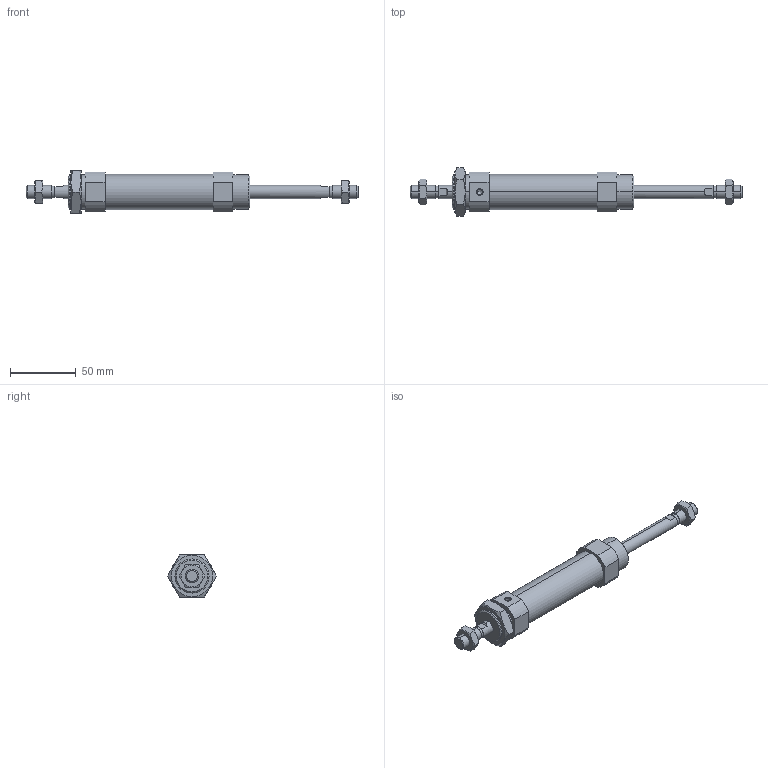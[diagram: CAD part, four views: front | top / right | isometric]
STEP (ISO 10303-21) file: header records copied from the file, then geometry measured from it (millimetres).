
FILE_DESCRIPTION (( 'STEP AP203' ), '1' );
FILE_NAME ('CSM2B25-50-P.STEP', '2020-07-20T16:42:39', ( '' ), ( '' ), 'SwSTEP 2.0', 'SolidWorks 2019', '' );
FILE_SCHEMA (( 'CONFIG_CONTROL_DESIGN' ));
Length unit declared in the file: millimetre
Products named in the file (1): CSM2B25-50-P
Bounding box: 252 x 36.95 x 32 mm (x, y, z)
Volume: 76117.3 mm3; surface area: 35180 mm2
Topology: 5 solids, 5 shells, 152 faces, 356 edges, 223 vertices
Faces by surface type: plane 62, cylinder 46, cone 44
Entity records: 5359 total; most frequent: CARTESIAN_POINT 1800, DIRECTION 738, ORIENTED_EDGE 708, EDGE_CURVE 354, AXIS2_PLACEMENT_3D 291, VERTEX_POINT 223, EDGE_LOOP 175, LINE 156
